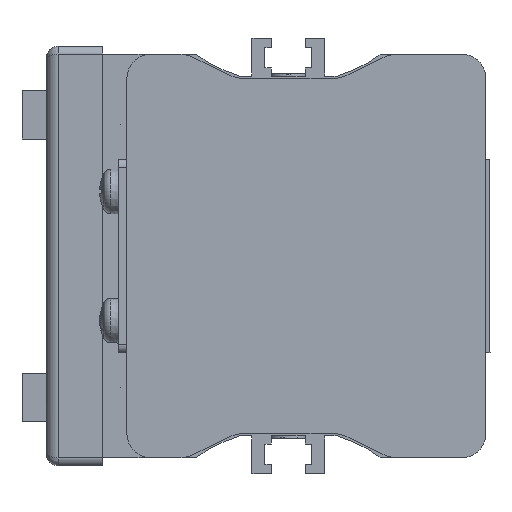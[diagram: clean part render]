
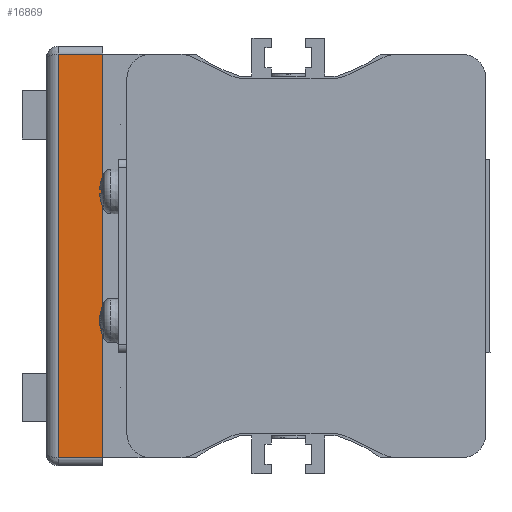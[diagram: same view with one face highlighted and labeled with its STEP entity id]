
A CAD part, left-side view. The second image highlights one B-rep face of the part: STEP entity #16869.
In plain terms, the highlighted planar face has unit normal (-1, 0, 0) as drawn and (0, 0, -1) by its records, which use the part's own axes.
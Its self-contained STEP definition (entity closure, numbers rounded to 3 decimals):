
#2311=LINE('',#32123,#3706);
#2341=LINE('',#32620,#3736);
#2342=LINE('',#32673,#3737);
#2343=LINE('',#32675,#3738);
#3706=VECTOR('',#22540,50.);
#3736=VECTOR('',#22598,50.);
#3737=VECTOR('',#22603,5.5);
#3738=VECTOR('',#22606,5.5);
#4932=FACE_OUTER_BOUND('',#6003,.T.);
#6003=EDGE_LOOP('',(#15295,#15296,#15297,#15298));
#8146=VERTEX_POINT('',#32120);
#8147=VERTEX_POINT('',#32122);
#8175=VERTEX_POINT('',#32485);
#8176=VERTEX_POINT('',#32619);
#10522=EDGE_CURVE('',#8146,#8147,#2311,.T.);
#10563=EDGE_CURVE('',#8176,#8175,#2341,.T.);
#10566=EDGE_CURVE('',#8146,#8176,#2342,.T.);
#10567=EDGE_CURVE('',#8175,#8147,#2343,.T.);
#15295=ORIENTED_EDGE('',*,*,#10563,.T.);
#15296=ORIENTED_EDGE('',*,*,#10567,.T.);
#15297=ORIENTED_EDGE('',*,*,#10522,.F.);
#15298=ORIENTED_EDGE('',*,*,#10566,.T.);
#15954=PLANE('',#18385);
#16869=ADVANCED_FACE('',(#4932),#15954,.T.);
#18385=AXIS2_PLACEMENT_3D('',#32674,#22604,#22605);
#22540=DIRECTION('',(1.,0.,0.));
#22598=DIRECTION('',(1.,0.,0.));
#22603=DIRECTION('',(0.,1.,0.));
#22604=DIRECTION('center_axis',(0.,0.,-1.));
#22605=DIRECTION('ref_axis',(0.,1.,0.));
#22606=DIRECTION('',(0.,-1.,0.));
#32120=CARTESIAN_POINT('',(1.,0.,-97.));
#32122=CARTESIAN_POINT('',(51.,0.,-97.));
#32123=CARTESIAN_POINT('',(1.,0.,-97.));
#32485=CARTESIAN_POINT('',(51.,5.5,-97.));
#32619=CARTESIAN_POINT('',(1.,5.5,-97.));
#32620=CARTESIAN_POINT('',(1.,5.5,-97.));
#32673=CARTESIAN_POINT('',(1.,0.,-97.));
#32674=CARTESIAN_POINT('Origin',(1.,0.,-97.));
#32675=CARTESIAN_POINT('',(51.,5.5,-97.));
